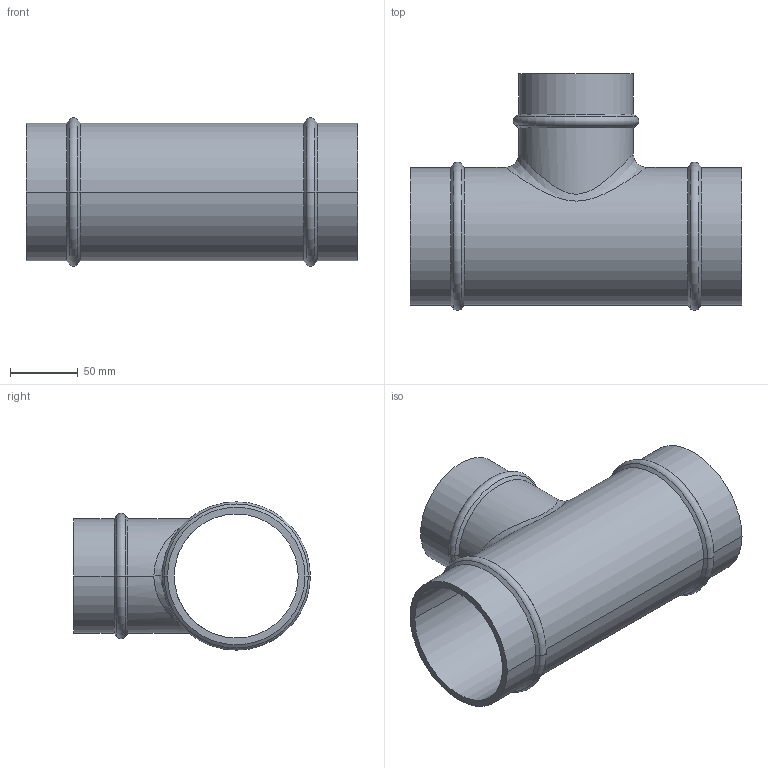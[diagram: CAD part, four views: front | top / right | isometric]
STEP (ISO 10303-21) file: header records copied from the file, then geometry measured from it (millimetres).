
FILE_DESCRIPTION((''),'2;1');
FILE_NAME('2014870700','2017-05-10T',('Administrator'),(''),'PRO/ENGINEER BY PARAMETRIC TECHNOLOGY CORPORATION, 2009360','PRO/ENGINEER BY PARAMETRIC TECHNOLOGY CORPORATION, 2009360','');
FILE_SCHEMA(('AUTOMOTIVE_DESIGN_CC2 { 1 2 10303 214 -1 1 5 2 }'));
Length unit declared in the file: millimetre
Products named in the file (1): 2014870700
Bounding box: 245 x 174.74 x 109.47 mm (x, y, z)
Volume: 432553.2 mm3; surface area: 185780.7 mm2
Topology: 1 solids, 1 shells, 37 faces, 79 edges, 44 vertices
Faces by surface type: cylinder 14, cone 12, torus 6, plane 3, bspline 2
Entity records: 1750 total; most frequent: CARTESIAN_POINT 667, DIRECTION 186, ORIENTED_EDGE 158, PRESENTATION_STYLE_ASSIGNMENT 80, STYLED_ITEM 80, AXIS2_PLACEMENT_3D 79, CURVE_STYLE 79, EDGE_CURVE 79
